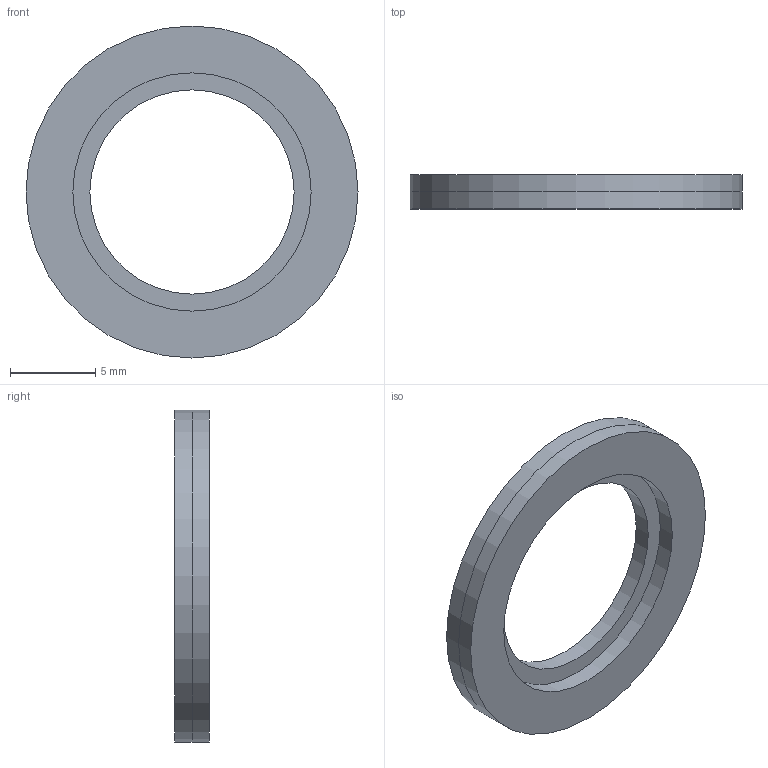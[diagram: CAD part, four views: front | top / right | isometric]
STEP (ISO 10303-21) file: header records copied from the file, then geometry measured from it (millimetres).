
FILE_DESCRIPTION(/* description */ ('STEP AP214'),/* implementation_level */ '2;1');
FILE_NAME(/* name */ 'C:\Users\hnc\Desktop\엔코더\Bearingless type\Axail type\AH19-12-32-31-1.28-HN-AL\AH19-12-32-31-1.28.stp',/* time_stamp */ '2023-05-28T19:52:09+09:00',/* author */ ('hnc'),/* organization */ (''),/* preprocessor_version */ 'ST-DEVELOPER v18.1',/* originating_system */ 'Autodesk Inventor 2021',/* authorisation */ '');
FILE_SCHEMA (('AUTOMOTIVE_DESIGN { 1 0 10303 214 3 1 1 }'));
Length unit declared in the file: millimetre
Products named in the file (3): AH19-12-32-31-1.28; AL_BASE; MAGNET-DISK-19
Assembly tree (2 placements, depth 2):
  AH19-12-32-31-1.28
    AL_BASE
    MAGNET-DISK-19
Bounding box: 19.5 x 2 x 19.5 mm (x, y, z)
Volume: 330.3 mm3; surface area: 864.7 mm2
Topology: 2 solids, 2 shells, 8 faces, 20 edges, 16 vertices
Faces by surface type: cylinder 4, plane 4
Full cylindrical faces by diameter (mm): 12 x1, 14 x1, 19.5 x2
Entity records: 404 total; most frequent: DIRECTION 62, CARTESIAN_POINT 49, ORIENTED_EDGE 40, AXIS2_PLACEMENT_3D 29, EDGE_CURVE 20, CIRCLE 16, VERTEX_POINT 16, EDGE_LOOP 12
